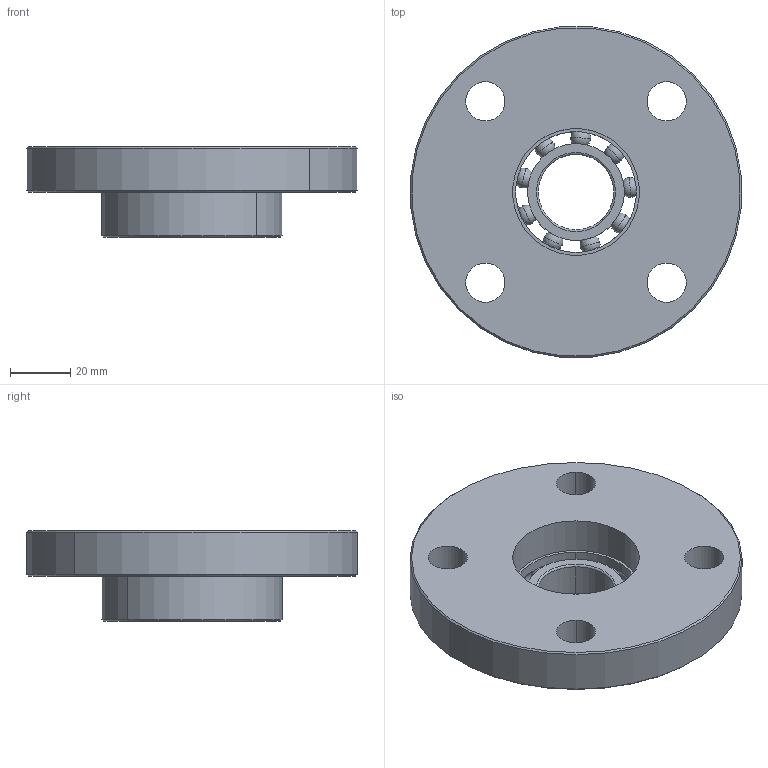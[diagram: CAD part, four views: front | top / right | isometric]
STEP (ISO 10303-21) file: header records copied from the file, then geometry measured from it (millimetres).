
FILE_DESCRIPTION (( 'STEP AP203' ), '1' );
FILE_NAME ('MJ4-EFM.STEP', '2024-01-15T15:32:58', ( '' ), ( '' ), 'SwSTEP 2.0', 'SolidWorks 2022', '' );
FILE_SCHEMA (( 'CONFIG_CONTROL_DESIGN' ));
Length unit declared in the file: millimetre
Products named in the file (1): MJ4-EFM
Bounding box: 109.58 x 109.58 x 30 mm (x, y, z)
Volume: 138950.8 mm3; surface area: 39700 mm2
Topology: 3 solids, 3 shells, 149 faces, 460 edges, 295 vertices
Faces by surface type: cylinder 44, sphere 44, torus 41, plane 14, cone 6
Entity records: 4549 total; most frequent: CARTESIAN_POINT 1225, DIRECTION 690, ORIENTED_EDGE 686, EDGE_CURVE 343, AXIS2_PLACEMENT_3D 317, VERTEX_POINT 232, CIRCLE 193, EDGE_LOOP 163
